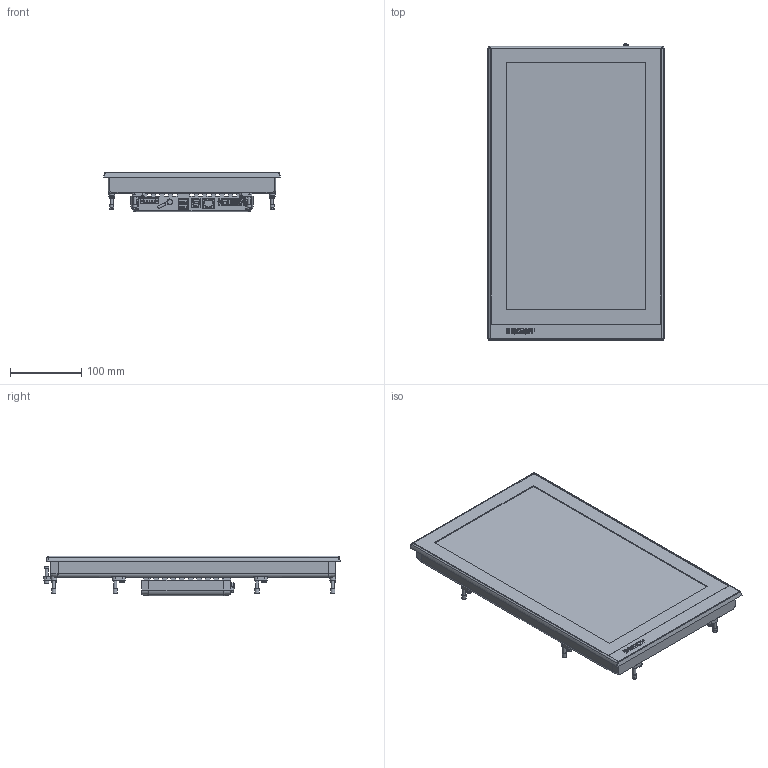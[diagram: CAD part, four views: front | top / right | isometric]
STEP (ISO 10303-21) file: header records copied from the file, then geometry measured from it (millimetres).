
FILE_DESCRIPTION(/* description */ (''),/* implementation_level */ '2;1');
FILE_NAME(/* name */ 'X:\0-inventor\0-3d-Teile\PC-Compo\solids\CP2xxx\0-Ausgabe\CP2916-M575.stp',/* time_stamp */ '2015-09-17T15:09:27+02:00',/* author */ ('christiankreuzer'),/* organization */ ('Design-AG'),/* preprocessor_version */ 'ST-DEVELOPER v16.1',/* originating_system */ 'Autodesk Inventor 2016',/* authorisation */ '');
FILE_SCHEMA (('AUTOMOTIVE_DESIGN { 1 0 10303 214 3 1 1 }'));
Products named in the file (1): CP2916-M575
Bounding box: 247.9 x 415.3 x 55.81 mm (x, y, z)
Volume: 2843637.3 mm3; surface area: 332716.1 mm2
Topology: 1 solids, 18 shells, 1651 faces, 4302 edges, 2776 vertices
Faces by surface type: plane 1002, cylinder 442, cone 120, bspline 63, torus 24
Full cylindrical faces by diameter (mm): 1.567 x2, 2.4 x2, 2.459 x2, 3 x10, 3.2 x2, 3.242 x16, 3.621 x1, 4 x8, 4.3 x1, 4.4 x8, 4.6 x8, 4.917 x8, 5.4 x8, 5.5 x8, 5.9 x1, 6 x11, 7 x8
Entity records: 53866 total; most frequent: CARTESIAN_POINT 12892, ORIENTED_EDGE 7988, DIRECTION 7909, EDGE_CURVE 3994, VERTEX_POINT 2696, LINE 2647, VECTOR 2647, AXIS2_PLACEMENT_3D 2631
